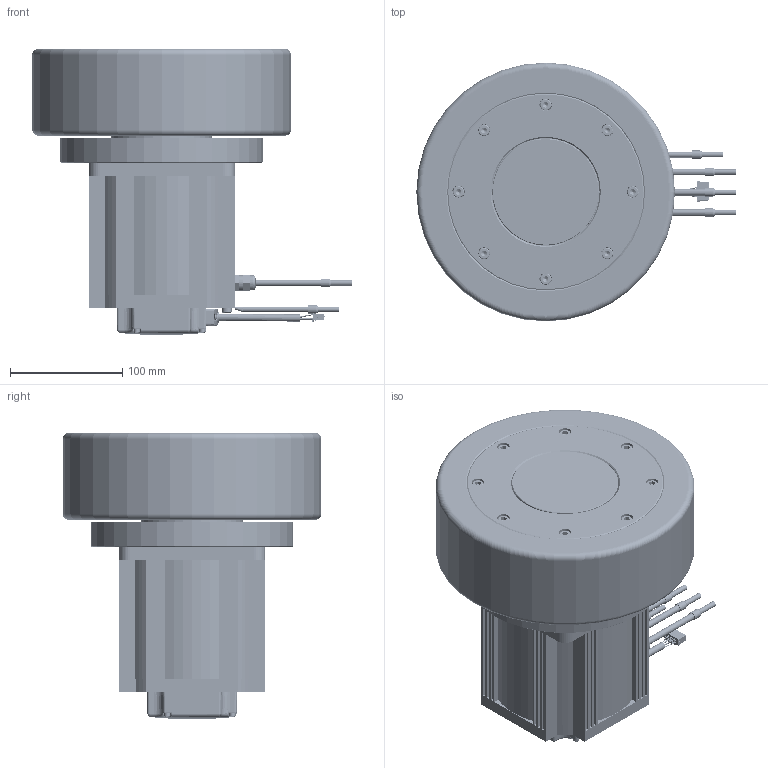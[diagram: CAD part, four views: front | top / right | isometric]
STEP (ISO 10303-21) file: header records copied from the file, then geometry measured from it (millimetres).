
FILE_DESCRIPTION((''),'2;1');
FILE_NAME('4611170005765_A0_130SVE04302-20_ASM','2025-03-12T11:05:44',('ms15079'),(''),'CREO PARAMETRIC BY PTC INC, 2018100','CREO PARAMETRIC BY PTC INC, 2018100','');
FILE_SCHEMA(('CONFIG_CONTROL_DESIGN'));
Length unit declared in the file: millimetre
Products named in the file (40): E10-18-1-SOLID1; 5016461600-1-SOLID1; M10_MM-8-20-1-SOLI0001; M5-5-SOLID1; E10-18-3-SOLID1; M10_MM-8-20-2-SOLI0001; M5-1-SOLID1; M5-2-SOLID1; 4294404003789_A0-1-SOLID1; _1-SOLID10001; _3-SOLID100; _1-SOLID100; _3_1_0001; M5-6-SOLID1; 4294404003789_A0-2-SOLID1; E10-18-4-SOLID1; _2-SOLID100; M5-8-SOLID1; 3698154000285__1_30001; M10_MM-8-20-3-SOLI0001; NONE-33391; 4294404003789_A0-3-SOLID1; M5-9-SOLID1; E10-18-2-SOLID1; _3_2_0001; M5-3-SOLID1; _1-SOLID200; NONE-47516; 4294404003789_A0-4-SOLID1; M5-4-SOLID1; M5-7-SOLID1; 130SVE04302-2000B-001_ASM; SINGLE_COIL_LOCK_WASHERS_LIGH_4; AEQ-145N-032-15-22-1_X2_6A215_1; HEXAGON_SOCKET_HEAD_CAP_SCREW_2; AEQ-145-H77-W230; AEQ-145-L2-15-22-1-H77-W230_ASM; AEQ-145N-020-15-22-1-H77-W230_ASM; 4611170005765_A0_130SVE04302-20_ASM
Assembly tree (53 placements, depth 4):
  4611170005765_A0_130SVE04302-20_ASM
    130SVE04302-2000B-001_ASM
      E10-18-1-SOLID1
      5016461600-1-SOLID1
      M10_MM-8-20-1-SOLI0001
      M5-5-SOLID1
      E10-18-3-SOLID1
      M10_MM-8-20-2-SOLI0001
      M5-1-SOLID1
      M5-2-SOLID1
      4294404003789_A0-1-SOLID1
      _1-SOLID10001
      _3-SOLID100
      _1-SOLID100
      _3_1_0001
      M5-6-SOLID1
      4294404003789_A0-2-SOLID1
      E10-18-4-SOLID1
      _2-SOLID100
      M5-8-SOLID1
      3698154000285__1_30001
      M10_MM-8-20-3-SOLI0001
      NONE-33391
      4294404003789_A0-3-SOLID1
      M5-9-SOLID1
      _1-SOLID100
      E10-18-2-SOLID1
      _3_2_0001
      M5-3-SOLID1
      _1-SOLID200
      NONE-47516
      4294404003789_A0-4-SOLID1
      M5-4-SOLID1
      M5-7-SOLID1
    AEQ-145N-020-15-22-1-H77-W230_ASM
      AEQ-145-L2-15-22-1-H77-W230_ASM
        SINGLE_COIL_LOCK_WASHERS_LIGH_4  x8
        AEQ-145N-032-15-22-1_X2_6A215_1
        HEXAGON_SOCKET_HEAD_CAP_SCREW_2  x8
        AEQ-145-H77-W230
Bounding box: 284 x 230 x 254.3 mm (x, y, z)
Volume: 4395107.2 mm3; surface area: 600346.2 mm2
Topology: 50 solids, 52 shells, 4107 faces, 9294 edges, 5389 vertices
Faces by surface type: cone 1397, plane 1254, cylinder 1193, torus 189, bspline 54, extrusion 10, sphere 10
Entity records: 73884 total; most frequent: CARTESIAN_POINT 17681, DIRECTION 12081, ORIENTED_EDGE 11192, EDGE_CURVE 5596, AXIS2_PLACEMENT_3D 4441, VERTEX_POINT 3506, VECTOR 3199, LINE 3189
